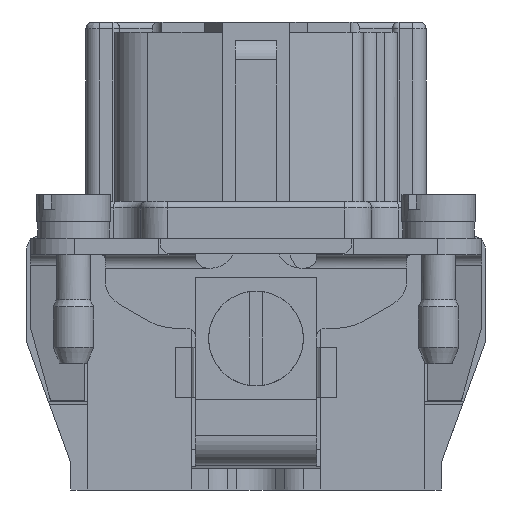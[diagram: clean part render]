
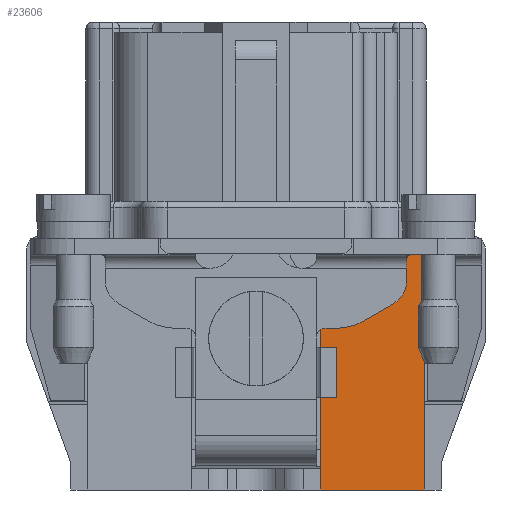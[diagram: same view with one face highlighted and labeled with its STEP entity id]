
A CAD part, left-side view. The second image highlights one B-rep face of the part: STEP entity #23606.
In plain terms, the highlighted planar face has unit normal (-1, 0, 0).
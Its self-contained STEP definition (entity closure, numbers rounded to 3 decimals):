
#23606=ADVANCED_FACE('',(#28703),#26863,.T.);
#26863=PLANE('',#82080);
#28703=FACE_OUTER_BOUND('',#31525,.T.);
#31525=EDGE_LOOP('',(#36949,#36950,#36951,#36952,#36953,#36954,#36955,#36956,
#36957,#36958));
#35304=CIRCLE('',#82077,2.);
#35305=CIRCLE('',#82078,4.);
#35306=CIRCLE('',#82079,0.6);
#36949=ORIENTED_EDGE('',*,*,#59854,.F.);
#36950=ORIENTED_EDGE('',*,*,#59848,.T.);
#36951=ORIENTED_EDGE('',*,*,#59855,.T.);
#36952=ORIENTED_EDGE('',*,*,#59856,.T.);
#36953=ORIENTED_EDGE('',*,*,#59857,.T.);
#36954=ORIENTED_EDGE('',*,*,#59858,.T.);
#36955=ORIENTED_EDGE('',*,*,#59859,.T.);
#36956=ORIENTED_EDGE('',*,*,#59860,.F.);
#36957=ORIENTED_EDGE('',*,*,#59861,.T.);
#36958=ORIENTED_EDGE('',*,*,#59862,.F.);
#54131=VERTEX_POINT('',#100594);
#54132=VERTEX_POINT('',#100595);
#54137=VERTEX_POINT('',#100607);
#54138=VERTEX_POINT('',#100609);
#54139=VERTEX_POINT('',#100611);
#54140=VERTEX_POINT('',#100613);
#54141=VERTEX_POINT('',#100615);
#54142=VERTEX_POINT('',#100617);
#54143=VERTEX_POINT('',#100619);
#54144=VERTEX_POINT('',#100621);
#59848=EDGE_CURVE('',#54131,#54132,#68436,.T.);
#59854=EDGE_CURVE('',#54131,#54137,#68441,.T.);
#59855=EDGE_CURVE('',#54132,#54138,#35304,.T.);
#59856=EDGE_CURVE('',#54138,#54139,#68442,.T.);
#59857=EDGE_CURVE('',#54139,#54140,#35305,.T.);
#59858=EDGE_CURVE('',#54140,#54141,#68443,.T.);
#59859=EDGE_CURVE('',#54141,#54142,#35306,.T.);
#59860=EDGE_CURVE('',#54143,#54142,#68444,.T.);
#59861=EDGE_CURVE('',#54143,#54144,#68445,.T.);
#59862=EDGE_CURVE('',#54137,#54144,#68446,.T.);
#68436=LINE('',#100593,#73638);
#68441=LINE('',#100606,#73643);
#68442=LINE('',#100610,#73644);
#68443=LINE('',#100614,#73645);
#68444=LINE('',#100618,#73646);
#68445=LINE('',#100620,#73647);
#68446=LINE('',#100622,#73648);
#73638=VECTOR('',#86517,1.);
#73643=VECTOR('',#86526,1.);
#73644=VECTOR('',#86529,1.);
#73645=VECTOR('',#86532,1.);
#73646=VECTOR('',#86535,1.);
#73647=VECTOR('',#86536,1.);
#73648=VECTOR('',#86537,1.);
#82077=AXIS2_PLACEMENT_3D('',#100608,#86527,#86528);
#82078=AXIS2_PLACEMENT_3D('',#100612,#86530,#86531);
#82079=AXIS2_PLACEMENT_3D('',#100616,#86533,#86534);
#82080=AXIS2_PLACEMENT_3D('',#100623,#86538,#86539);
#86517=DIRECTION('',(0.,0.,-1.));
#86526=DIRECTION('',(0.,-1.,0.));
#86527=DIRECTION('',(1.,0.,0.));
#86528=DIRECTION('',(0.,0.,1.));
#86529=DIRECTION('',(0.,0.866,-0.5));
#86530=DIRECTION('',(1.,0.,0.));
#86531=DIRECTION('',(0.,0.,1.));
#86532=DIRECTION('',(0.,1.,0.));
#86533=DIRECTION('',(-1.,0.,0.));
#86534=DIRECTION('',(0.,0.,1.));
#86535=DIRECTION('',(0.,0.,1.));
#86536=DIRECTION('',(0.,-1.,0.));
#86537=DIRECTION('',(0.,0.,-1.));
#86538=DIRECTION('',(-1.,0.,0.));
#86539=DIRECTION('',(0.,0.,-1.));
#100593=CARTESIAN_POINT('',(-44.875,-11.15,-17.4));
#100594=CARTESIAN_POINT('',(-44.875,-11.15,1.2));
#100595=CARTESIAN_POINT('',(-44.875,-11.15,-1.899));
#100606=CARTESIAN_POINT('',(-44.875,0.,1.2));
#100607=CARTESIAN_POINT('',(-44.875,-12.45,1.2));
#100608=CARTESIAN_POINT('',(-44.875,-9.15,-1.899));
#100609=CARTESIAN_POINT('',(-44.875,-10.15,-3.631));
#100610=CARTESIAN_POINT('',(-44.875,-5.913,-6.078));
#100611=CARTESIAN_POINT('',(-44.875,-7.928,-4.914));
#100612=CARTESIAN_POINT('',(-44.875,-5.928,-1.45));
#100613=CARTESIAN_POINT('',(-44.875,-5.928,-5.45));
#100614=CARTESIAN_POINT('',(-44.875,-12.45,-5.45));
#100615=CARTESIAN_POINT('',(-44.875,-5.1,-5.45));
#100616=CARTESIAN_POINT('',(-44.875,-5.1,-6.05));
#100617=CARTESIAN_POINT('',(-44.875,-4.8,-5.53));
#100618=CARTESIAN_POINT('',(-44.875,-4.8,-2.));
#100619=CARTESIAN_POINT('',(-44.875,-4.8,-17.4));
#100620=CARTESIAN_POINT('',(-44.875,-12.45,-17.4));
#100621=CARTESIAN_POINT('',(-44.875,-12.45,-17.4));
#100622=CARTESIAN_POINT('',(-44.875,-12.45,-17.4));
#100623=CARTESIAN_POINT('',(-44.875,-12.45,-17.4));
